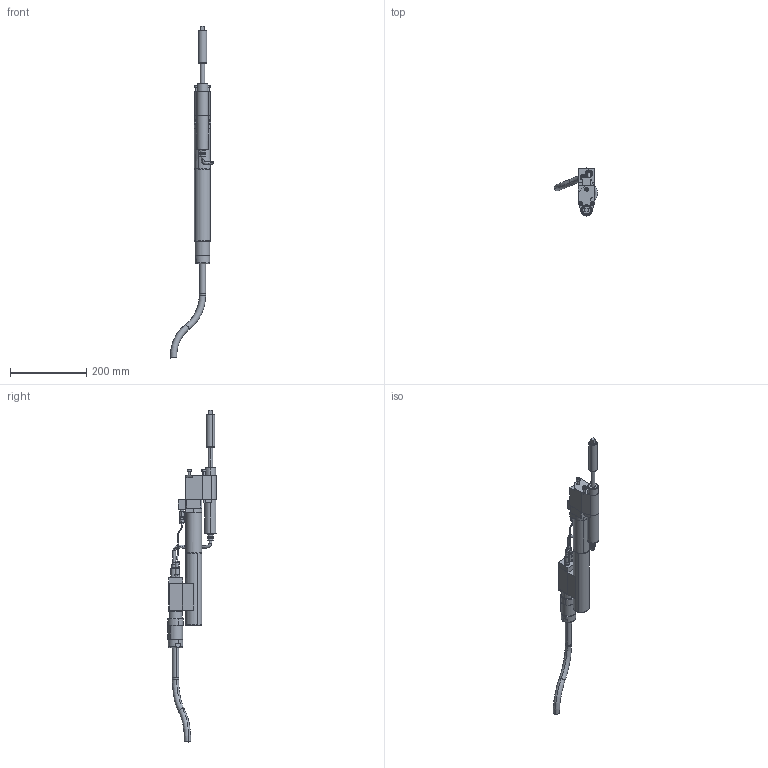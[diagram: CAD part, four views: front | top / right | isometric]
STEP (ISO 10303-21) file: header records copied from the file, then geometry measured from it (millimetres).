
FILE_DESCRIPTION(('CATIA V5 STEP Exchange'),'2;1');
FILE_NAME('O:\3D-Schrauber\Einschauschrauber Groesse1 CATIA V4+V5\7920137_ECR103_W1_AOD150-35_AllCATPart.stp','2008-11-06T10:34:02+00:00',('none'),('none'),'CATIA Version 5 Release 16 (IN-10)','CATIA V5 STEP AP203','none');
FILE_SCHEMA(('CONFIG_CONTROL_DESIGN'));
Length unit declared in the file: millimetre
Products named in the file (1): 7920137_ECR103_W1_AOD150-35_AllCATPart
Bounding box: 112.82 x 126.27 x 868.66 mm (x, y, z)
Volume: 1162999.8 mm3; surface area: 174246.8 mm2
Topology: 20 solids, 20 shells, 470 faces, 1056 edges, 670 vertices
Faces by surface type: plane 227, cylinder 157, cone 42, torus 40, bspline 4
Entity records: 12790 total; most frequent: CARTESIAN_POINT 2911, ORIENTED_EDGE 2112, DIRECTION 1704, EDGE_CURVE 1056, AXIS2_PLACEMENT_3D 829, VERTEX_POINT 670, VECTOR 532, LINE 532
